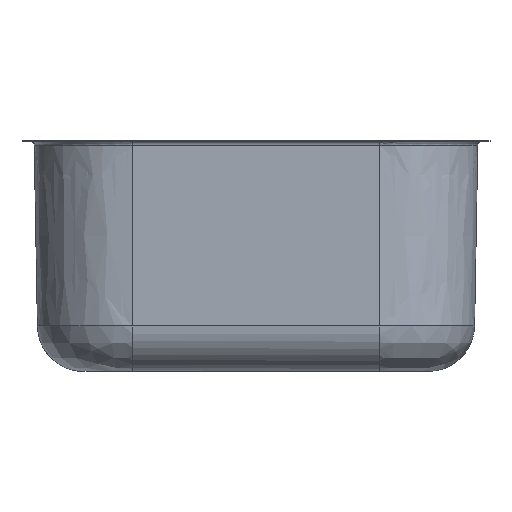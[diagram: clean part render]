
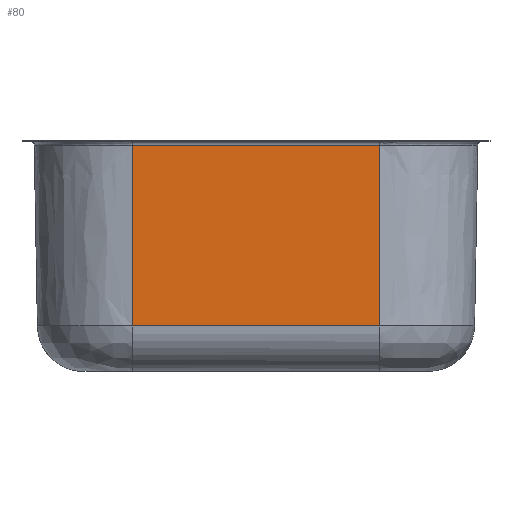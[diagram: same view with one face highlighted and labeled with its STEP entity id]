
A CAD part, left-side view. The second image highlights one B-rep face of the part: STEP entity #80.
In plain terms, the highlighted planar face has unit normal (-1, 0, -0.018).
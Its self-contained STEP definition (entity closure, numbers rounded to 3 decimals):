
#80=ADVANCED_FACE('',(#183),#184,.T.);
#183=FACE_OUTER_BOUND('',#470,.T.);
#184=PLANE('',#471);
#470=EDGE_LOOP('',(#6301,#6302,#6303,#6304));
#471=AXIS2_PLACEMENT_3D('',#6305,#6306,#6307);
#6301=ORIENTED_EDGE('',*,*,#6948,.T.);
#6302=ORIENTED_EDGE('',*,*,#6949,.T.);
#6303=ORIENTED_EDGE('',*,*,#6950,.T.);
#6304=ORIENTED_EDGE('',*,*,#6946,.F.);
#6305=CARTESIAN_POINT('',(-199.117,0.,-87.91));
#6306=DIRECTION('',(-1.,0.0,-0.017));
#6307=DIRECTION('',(-0.017,0.0,1.));
#6946=EDGE_CURVE('',#7204,#7206,#7207,.T.);
#6948=EDGE_CURVE('',#7204,#7209,#7210,.T.);
#6949=EDGE_CURVE('',#7209,#7211,#7212,.T.);
#6950=EDGE_CURVE('',#7211,#7206,#7213,.F.);
#7204=VERTEX_POINT('',#7750);
#7206=VERTEX_POINT('',#7796);
#7207=B_SPLINE_CURVE_WITH_KNOTS('',1,(#7797,#7798),.UNSPECIFIED.,.F.,.F.,(2,2),(34.394,173.489),.UNSPECIFIED.);
#7209=VERTEX_POINT('',#7817);
#7210=LINE('',#7818,#7819);
#7211=VERTEX_POINT('',#7820);
#7212=LINE('',#7821,#7822);
#7213=LINE('',#7823,#7824);
#7750=CARTESIAN_POINT('',(-198.172,95.062,-142.021));
#7796=CARTESIAN_POINT('',(-200.6,95.062,-2.948));
#7797=CARTESIAN_POINT('',(-198.172,95.062,-142.021));
#7798=CARTESIAN_POINT('',(-200.6,95.062,-2.948));
#7817=CARTESIAN_POINT('',(-198.172,-95.061,-142.021));
#7818=CARTESIAN_POINT('',(-198.172,0.,-142.021));
#7819=VECTOR('',#9392,1.0);
#7820=CARTESIAN_POINT('',(-200.6,-95.062,-2.948));
#7821=CARTESIAN_POINT('',(-199.386,-95.062,-72.484));
#7822=VECTOR('',#9393,1.0);
#7823=CARTESIAN_POINT('',(-200.6,0.,-2.948));
#7824=VECTOR('',#9394,1.0);
#9392=DIRECTION('',(0.0,-1.0,0.0));
#9393=DIRECTION('',(-0.017,0.0,1.));
#9394=DIRECTION('',(0.0,-1.0,0.0));
